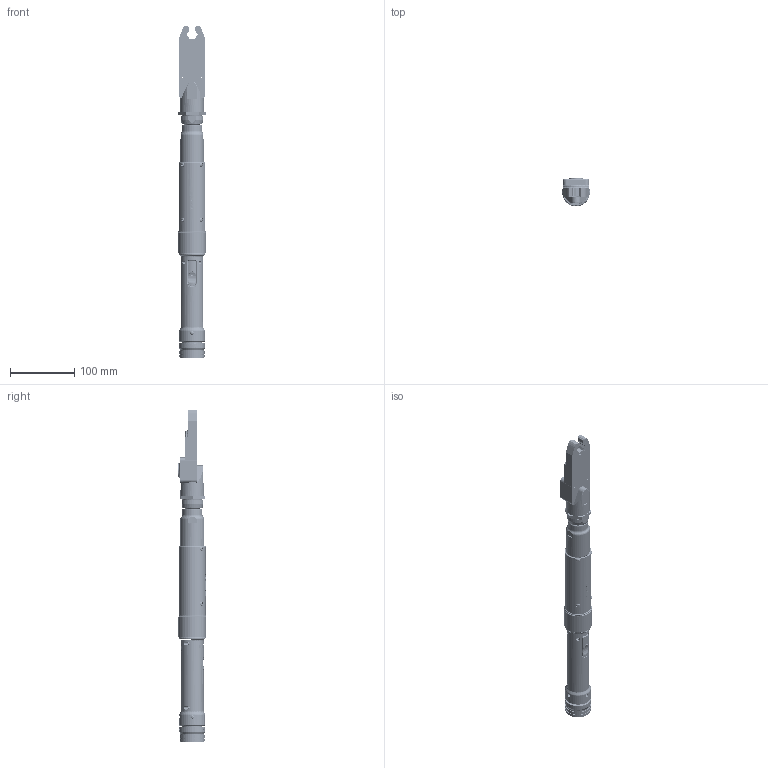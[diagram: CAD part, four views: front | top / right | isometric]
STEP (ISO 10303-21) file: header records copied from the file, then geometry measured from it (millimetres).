
FILE_DESCRIPTION (( 'STEP AP214' ), '1' );
FILE_NAME ('AET4AB22021B.STEP', '2020-01-03T22:38:15', ( '' ), ( '' ), 'SwSTEP 2.0', 'SolidWorks 2019', '' );
FILE_SCHEMA (( 'AUTOMOTIVE_DESIGN' ));
Length unit declared in the file: inch
Products named in the file (1): AET4AB22021B
Bounding box: 43.31 x 44.34 x 518.53 mm (x, y, z)
Volume: 306078.5 mm3; surface area: 170333.9 mm2
Topology: 86 solids, 86 shells, 6298 faces, 16135 edges, 10218 vertices
Faces by surface type: plane 2346, cylinder 1506, bspline 1283, cone 716, torus 422, sphere 25
Entity records: 319125 total; most frequent: CARTESIAN_POINT 93159, ORIENTED_EDGE 32184, DIRECTION 25918, EDGE_CURVE 16092, VERTEX_POINT 10218, AXIS2_PLACEMENT_3D 9686, EDGE_LOOP 6824, VECTOR 6546
